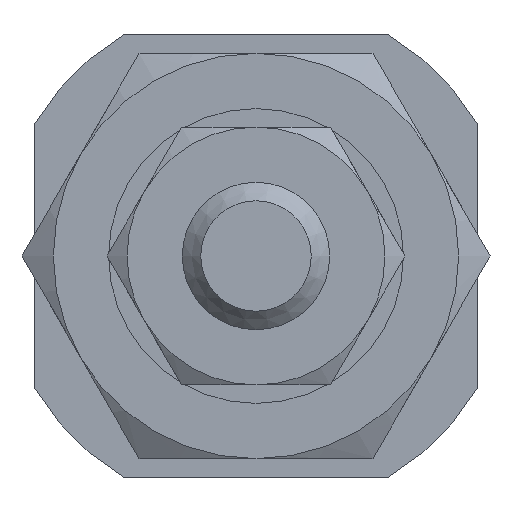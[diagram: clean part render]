
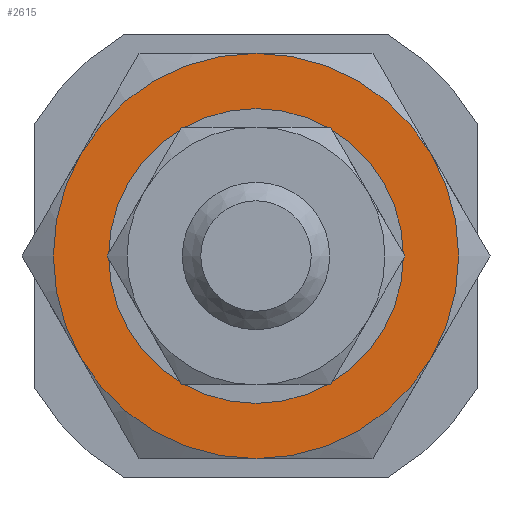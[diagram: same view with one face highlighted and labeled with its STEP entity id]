
A CAD part, left-side view. The second image highlights one B-rep face of the part: STEP entity #2615.
In plain terms, the highlighted planar face has unit normal (-1, 0, 0).
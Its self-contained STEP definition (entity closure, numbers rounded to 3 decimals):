
#844=CARTESIAN_POINT('',(-130.899,4.763,-2.75));
#845=VERTEX_POINT('',#844);
#861=CARTESIAN_POINT('',(-130.899,4.763,2.75));
#862=VERTEX_POINT('',#861);
#863=CARTESIAN_POINT('',(-130.899,0.,0.0));
#864=DIRECTION('',(-1.0,0.0,0.0));
#865=DIRECTION('',(0.0,-1.0,0.0));
#866=AXIS2_PLACEMENT_3D('',#863,#864,#865);
#867=CIRCLE('',#866,5.5);
#868=EDGE_CURVE('',#862,#845,#867,.T.);
#893=CARTESIAN_POINT('',(-130.899,0.,5.5));
#894=VERTEX_POINT('',#893);
#921=CARTESIAN_POINT('',(-130.899,0.,0.0));
#922=DIRECTION('',(-1.0,0.0,0.0));
#923=DIRECTION('',(0.0,-1.0,0.0));
#924=AXIS2_PLACEMENT_3D('',#921,#922,#923);
#925=CIRCLE('',#924,5.5);
#926=EDGE_CURVE('',#894,#862,#925,.T.);
#936=CARTESIAN_POINT('',(-130.899,0.,-5.5));
#937=VERTEX_POINT('',#936);
#953=CARTESIAN_POINT('',(-130.899,0.,0.0));
#954=DIRECTION('',(-1.0,0.0,0.0));
#955=DIRECTION('',(0.0,-1.0,0.0));
#956=AXIS2_PLACEMENT_3D('',#953,#954,#955);
#957=CIRCLE('',#956,5.5);
#958=EDGE_CURVE('',#845,#937,#957,.T.);
#983=CARTESIAN_POINT('',(-130.899,-4.763,2.75));
#984=VERTEX_POINT('',#983);
#1011=CARTESIAN_POINT('',(-130.899,0.,0.0));
#1012=DIRECTION('',(-1.0,0.0,0.0));
#1013=DIRECTION('',(0.0,-1.0,0.0));
#1014=AXIS2_PLACEMENT_3D('',#1011,#1012,#1013);
#1015=CIRCLE('',#1014,5.5);
#1016=EDGE_CURVE('',#984,#894,#1015,.T.);
#1026=CARTESIAN_POINT('',(-130.899,-4.763,-2.75));
#1027=VERTEX_POINT('',#1026);
#1043=CARTESIAN_POINT('',(-130.899,0.,0.0));
#1044=DIRECTION('',(-1.0,0.0,0.0));
#1045=DIRECTION('',(0.0,-1.0,0.0));
#1046=AXIS2_PLACEMENT_3D('',#1043,#1044,#1045);
#1047=CIRCLE('',#1046,5.5);
#1048=EDGE_CURVE('',#937,#1027,#1047,.T.);
#1086=CARTESIAN_POINT('',(-130.899,0.,0.0));
#1087=DIRECTION('',(-1.0,0.0,0.0));
#1088=DIRECTION('',(0.0,-1.0,0.0));
#1089=AXIS2_PLACEMENT_3D('',#1086,#1087,#1088);
#1090=CIRCLE('',#1089,5.5);
#1091=EDGE_CURVE('',#1027,#984,#1090,.T.);
#2591=CARTESIAN_POINT('',(-130.899,5.75,0.0));
#2592=DIRECTION('',(-1.0,0.0,0.0));
#2593=DIRECTION('',(0.0,0.0,1.0));
#2594=AXIS2_PLACEMENT_3D('',#2591,#2592,#2593);
#2595=PLANE('',#2594);
#2596=ORIENTED_EDGE('',*,*,#868,.T.);
#2597=ORIENTED_EDGE('',*,*,#958,.T.);
#2598=ORIENTED_EDGE('',*,*,#1048,.T.);
#2599=ORIENTED_EDGE('',*,*,#1091,.T.);
#2600=ORIENTED_EDGE('',*,*,#1016,.T.);
#2601=ORIENTED_EDGE('',*,*,#926,.T.);
#2602=EDGE_LOOP('',(#2596,#2597,#2598,#2599,#2600,#2601));
#2603=FACE_OUTER_BOUND('',#2602,.T.);
#2604=CARTESIAN_POINT('',(-130.899,4.,0.0));
#2605=VERTEX_POINT('',#2604);
#2606=CARTESIAN_POINT('',(-130.899,0.,0.0));
#2607=DIRECTION('',(-1.0,0.0,0.0));
#2608=DIRECTION('',(0.0,1.0,0.0));
#2609=AXIS2_PLACEMENT_3D('',#2606,#2607,#2608);
#2610=CIRCLE('',#2609,4.);
#2611=EDGE_CURVE('',#2605,#2605,#2610,.T.);
#2612=ORIENTED_EDGE('',*,*,#2611,.F.);
#2613=EDGE_LOOP('',(#2612));
#2614=FACE_BOUND('',#2613,.T.);
#2615=ADVANCED_FACE('',(#2603,#2614),#2595,.T.);
